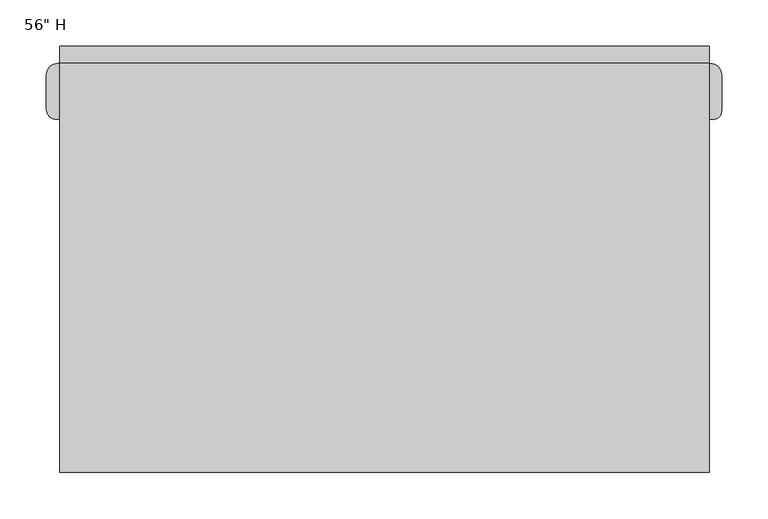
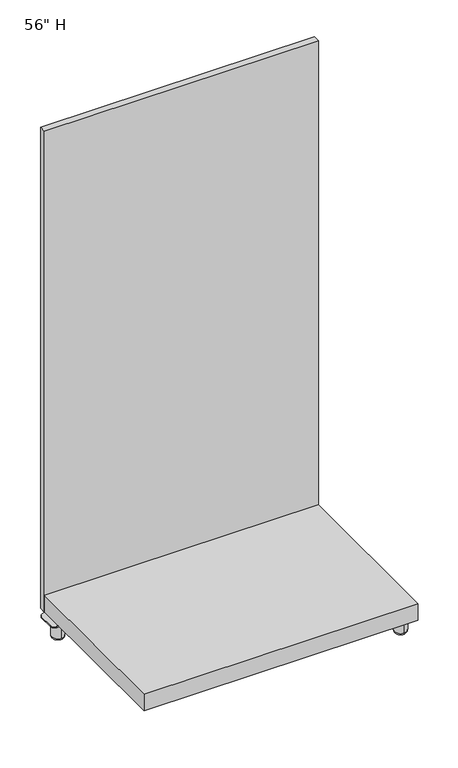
"""IFC4 building model written with IfcOpenShell, lengths in millimetres: furniture geometry."""

from ifc_helpers import new_model, si_unit, point, frame, frame_2d, origin, place, context, project, spatial, polyline, circle_curve, ellipse_curve, trimmed, segment, composite_curve, outline, extrude, source, transform, mapped, element, save
from ifc_brep_helpers import plane_surface, cylinder_surface, revolved_surface, advanced_brep


def furniture_d5c8ed67(model_context):
    return source(origin(), model_context, "Body", "SolidModel", [
        advanced_brep(
        [(332.8420843, -395.1035296, 88.0012691), (332.8420843, -426.3711705, 88.0012691), (332.8420843, -410.7373501, 88.0012691), (332.8420843, -401.4692087, 84.1912637), (332.8420843, -420.0054914, 84.1912637), (332.8420843, -403.7726725, 84.1912637), (332.8420843, -417.7020276, 84.1912637), (332.8420843, -403.7726725, 79.898675), (332.8420843, -417.7020276, 79.898675), (332.8420843, -407.1686498, 79.898675), (332.8420843, -414.3060503, 79.898675), (332.8420843, -407.1686498, 78.8669248), (332.8420843, -414.3060503, 78.8669248), (332.8420843, -395.1035296, 78.8669248), (332.8420843, -426.3711705, 78.8669248), (332.8420843, -395.1035296, 43.7095315), (332.8420843, -426.3711705, 43.7095315), (332.8420843, -401.4535296, 37.3595315), (332.8420843, -420.0211705, 37.3595315), (332.8420843, -410.7373501, 37.3595315)],
        [
            (0, 1, circle_curve(frame((332.8420843, -410.7373501, 88.0012691), z_axis=(0.0, 0.0, 1.0), x_axis=(0.0, -1.0, 0.0)), 15.6338204)),
            (1, 2),
            (2, 0),
            (1, 0, circle_curve(frame((332.8420843, -410.7373501, 88.0012691), z_axis=(0.0, 0.0, 1.0), x_axis=(0.0, -1.0, 0.0)), 15.6338204)),
            (3, 4, circle_curve(frame((332.8420843, -410.7373501, 84.1912637), z_axis=(0.0, 0.0, 1.0), x_axis=(0.0, -1.0, 0.0)), 9.2681413)),
            (4, 1),
            (0, 3),
            (4, 3, circle_curve(frame((332.8420843, -410.7373501, 84.1912637), z_axis=(0.0, 0.0, 1.0), x_axis=(0.0, -1.0, 0.0)), 9.2681413)),
            (5, 6, circle_curve(frame((332.8420843, -410.7373501, 84.1912637), z_axis=(0.0, 0.0, 1.0), x_axis=(0.0, -1.0, 0.0)), 6.9646775)),
            (6, 4),
            (3, 5),
            (6, 5, circle_curve(frame((332.8420843, -410.7373501, 84.1912637), z_axis=(0.0, 0.0, 1.0), x_axis=(0.0, -1.0, 0.0)), 6.9646775)),
            (7, 8, circle_curve(frame((332.8420843, -410.7373501, 79.898675), z_axis=(0.0, 0.0, 1.0), x_axis=(0.0, -1.0, 0.0)), 6.9646775)),
            (8, 6, circle_curve(frame((332.8420843, -415.6994524, 82.0449694), z_axis=(-1.0, 0.0, 0.0), x_axis=(0.0, 1.0, 0.0)), 2.9354534)),
            (5, 7, circle_curve(frame((332.8420843, -405.7752478, 82.0449694), z_axis=(-1.0, 0.0, 0.0), x_axis=(0.0, -1.0, 0.0)), 2.9354534)),
            (8, 7, circle_curve(frame((332.8420843, -410.7373501, 79.898675), z_axis=(0.0, 0.0, 1.0), x_axis=(0.0, -1.0, 0.0)), 6.9646775)),
            (9, 10, circle_curve(frame((332.8420843, -410.7373501, 79.898675), z_axis=(0.0, 0.0, 1.0), x_axis=(0.0, -1.0, 0.0)), 3.5687002)),
            (10, 8),
            (7, 9),
            (10, 9, circle_curve(frame((332.8420843, -410.7373501, 79.898675), z_axis=(0.0, 0.0, 1.0), x_axis=(0.0, -1.0, 0.0)), 3.5687002)),
            (11, 12, circle_curve(frame((332.8420843, -410.7373501, 78.8669248), z_axis=(0.0, 0.0, 1.0), x_axis=(0.0, -1.0, 0.0)), 3.5687002)),
            (12, 10),
            (9, 11),
            (12, 11, circle_curve(frame((332.8420843, -410.7373501, 78.8669248), z_axis=(0.0, 0.0, 1.0), x_axis=(0.0, -1.0, 0.0)), 3.5687002)),
            (13, 14, circle_curve(frame((332.8420843, -410.7373501, 78.8669248), z_axis=(0.0, 0.0, 1.0), x_axis=(0.0, -1.0, 0.0)), 15.6338204)),
            (14, 12),
            (11, 13),
            (14, 13, circle_curve(frame((332.8420843, -410.7373501, 78.8669248), z_axis=(0.0, 0.0, 1.0), x_axis=(0.0, -1.0, 0.0)), 15.6338204)),
            (15, 16, circle_curve(frame((332.8420843, -410.7373501, 43.7095315), z_axis=(0.0, 0.0, 1.0), x_axis=(0.0, -1.0, 0.0)), 15.6338204)),
            (16, 14),
            (13, 15),
            (16, 15, circle_curve(frame((332.8420843, -410.7373501, 43.7095315), z_axis=(0.0, 0.0, 1.0), x_axis=(0.0, -1.0, 0.0)), 15.6338204)),
            (17, 18, circle_curve(frame((332.8420843, -410.7373501, 37.3595315), z_axis=(0.0, 0.0, 1.0), x_axis=(0.0, -1.0, 0.0)), 9.2838204)),
            (18, 16, circle_curve(frame((332.8420843, -420.0211705, 43.7095315), z_axis=(-1.0, 0.0, 0.0), x_axis=(0.0, 1.0, 0.0)), 6.35)),
            (15, 17, circle_curve(frame((332.8420843, -401.4535296, 43.7095315), z_axis=(-1.0, 0.0, 0.0), x_axis=(0.0, -1.0, 0.0)), 6.35)),
            (18, 17, circle_curve(frame((332.8420843, -410.7373501, 37.3595315), z_axis=(0.0, 0.0, 1.0), x_axis=(0.0, -1.0, 0.0)), 9.2838204)),
            (19, 18),
            (17, 19),
        ],
        [
            plane_surface(frame((332.8420843, -410.7373501, 88.0012691), z_axis=(0.0, 0.0, 1.0), x_axis=(0.0, -1.0, 0.0))),
            revolved_surface(polyline([(332.8420843, -426.3711705, 88.0012691), (332.8420843, -420.0054914, 84.1912637)]), (332.8420843, -410.7373501, 88.0012691), (0.0, 0.0, -1.0)),
            plane_surface(frame((332.8420843, -410.7373501, 84.1912637), z_axis=(0.0, 0.0, -1.0), x_axis=(0.0, -1.0, 0.0))),
            revolved_surface(trimmed(ellipse_curve(frame((332.8420843, -415.6994524, 82.0449694), z_axis=(1.0, 0.0, 0.0), x_axis=(0.0, 1.0, 0.0)), 2.9354534, 2.9354534), [point((332.8420843, -417.7020276, 84.1912637))], [point((332.8420843, -417.7020276, 79.898675))], True, "CARTESIAN"), (332.8420843, -410.7373501, 88.0012691), (0.0, 0.0, -1.0)),
            plane_surface(frame((332.8420843, -410.7373501, 79.898675), z_axis=(0.0, 0.0, -1.0), x_axis=(0.0, -1.0, 0.0))),
            cylinder_surface(frame((332.8420843, -410.7373501, 88.0012691), z_axis=(0.0, 0.0, -1.0), x_axis=(0.0, -1.0, 0.0)), 3.5687002),
            plane_surface(frame((332.8420843, -410.7373501, 78.8669248), z_axis=(0.0, 0.0, 1.0), x_axis=(0.0, -1.0, 0.0))),
            cylinder_surface(frame((332.8420843, -410.7373501, 88.0012691), z_axis=(0.0, 0.0, -1.0), x_axis=(0.0, -1.0, 0.0)), 15.6338204),
            revolved_surface(trimmed(ellipse_curve(frame((332.8420843, -420.0211705, 43.7095315), z_axis=(1.0, 0.0, 0.0), x_axis=(0.0, 1.0, 0.0)), 6.35, 6.35), [point((332.8420843, -426.3711705, 43.7095315))], [point((332.8420843, -420.0211705, 37.3595315))], True, "CARTESIAN"), (332.8420843, -410.7373501, 88.0012691), (0.0, 0.0, -1.0)),
            plane_surface(frame((332.8420843, -410.7373501, 37.3595315), z_axis=(0.0, 0.0, -1.0), x_axis=(0.0, -1.0, 0.0))),
        ],
        [
            (0, [[1, 2, 3]]),
            (0, [[4, -3, -2]]),
            (1, [[5, 6, -1, 7]]),
            (1, [[8, -7, -4, -6]]),
            (2, [[9, 10, -5, 11]]),
            (2, [[12, -11, -8, -10]]),
            (3, [[13, 14, -9, 15]]),
            (3, [[16, -15, -12, -14]]),
            (4, [[17, 18, -13, 19]]),
            (4, [[20, -19, -16, -18]]),
            (5, [[21, 22, -17, 23]]),
            (5, [[24, -23, -20, -22]]),
            (6, [[25, 26, -21, 27]]),
            (6, [[28, -27, -24, -26]]),
            (7, [[29, 30, -25, 31]]),
            (7, [[32, -31, -28, -30]]),
            (8, [[33, 34, -29, 35]]),
            (8, [[36, -35, -32, -34]]),
            (9, [[37, -33, 38]]),
            (9, [[-38, -36, -37]]),
        ],
    ),
        extrude(outline(composite_curve([segment(polyline([(-312.5986224, -79.1802312), (-353.0338836, -79.1802312)]), True, "CONTINUOUS"), segment(trimmed(circle_curve(frame_2d((-353.0338836, -68.3207721)), 10.8594591), [point((-353.0338836, -79.1802312))], [point((-363.8933426, -68.3207721))], False, "CARTESIAN"), True, "CONTINUOUS"), segment(polyline([(-363.8933426, -68.3207721), (-363.8933426, -31.6030371)]), True, "CONTINUOUS"), segment(trimmed(circle_curve(frame_2d((-351.1933426, -31.6030371)), 12.7), [point((-363.8933426, -31.6030371))], [point((-351.1933426, -18.9030371))], False, "CARTESIAN"), True, "CONTINUOUS"), segment(polyline([(-351.1933426, -18.9030371), (-316.1278694, -18.9030371)]), True, "CONTINUOUS"), segment(trimmed(circle_curve(frame_2d((-316.1278694, -31.6030371)), 12.7), [point((-316.1278694, -18.9030371))], [point((-303.4278694, -31.6030371))], False, "CARTESIAN"), True, "CONTINUOUS"), segment(polyline([(-303.4278694, -31.6030371), (-303.4278694, -70.0094781)]), True, "CONTINUOUS"), segment(trimmed(circle_curve(frame_2d((-312.5986224, -70.0094781)), 9.1707531), [point((-303.4278694, -70.0094781))], [point((-312.5986224, -79.1802312))], False, "CARTESIAN"), True, "CONTINUOUS")], self_intersect=False)), frame((0.0, 0.0, 88.0012691), z_axis=(0.0, 0.0, 1.0), x_axis=(1.0, 0.0, 0.0)), (0.0, 0.0, 1.0), 2.8561029),
        advanced_brep(
        [(-333.4021566, -33.6269203, 88.0012691), (-333.4021566, -64.8945612, 88.0012691), (-333.4021566, -49.2607408, 88.0012691), (-333.4021566, -39.9925994, 84.1912637), (-333.4021566, -58.5288821, 84.1912637), (-333.4021566, -42.2960632, 84.1912637), (-333.4021566, -56.2254183, 84.1912637), (-333.4021566, -42.2960632, 79.898675), (-333.4021566, -56.2254183, 79.898675), (-333.4021566, -45.6920405, 79.898675), (-333.4021566, -52.829441, 79.898675), (-333.4021566, -45.6920405, 78.8669248), (-333.4021566, -52.829441, 78.8669248), (-333.4021566, -33.6269203, 78.8669248), (-333.4021566, -64.8945612, 78.8669248), (-333.4021566, -33.6269203, 43.7095315), (-333.4021566, -64.8945612, 43.7095315), (-333.4021566, -39.9769203, 37.3595315), (-333.4021566, -58.5445612, 37.3595315), (-333.4021566, -49.2607408, 37.3595315)],
        [
            (0, 1, circle_curve(frame((-333.4021566, -49.2607408, 88.0012691), z_axis=(0.0, 0.0, 1.0), x_axis=(0.0, -1.0, 0.0)), 15.6338204)),
            (1, 2),
            (2, 0),
            (1, 0, circle_curve(frame((-333.4021566, -49.2607408, 88.0012691), z_axis=(0.0, 0.0, 1.0), x_axis=(0.0, -1.0, 0.0)), 15.6338204)),
            (3, 4, circle_curve(frame((-333.4021566, -49.2607408, 84.1912637), z_axis=(0.0, 0.0, 1.0), x_axis=(0.0, -1.0, 0.0)), 9.2681413)),
            (4, 1),
            (0, 3),
            (4, 3, circle_curve(frame((-333.4021566, -49.2607408, 84.1912637), z_axis=(0.0, 0.0, 1.0), x_axis=(0.0, -1.0, 0.0)), 9.2681413)),
            (5, 6, circle_curve(frame((-333.4021566, -49.2607408, 84.1912637), z_axis=(0.0, 0.0, 1.0), x_axis=(0.0, -1.0, 0.0)), 6.9646775)),
            (6, 4),
            (3, 5),
            (6, 5, circle_curve(frame((-333.4021566, -49.2607408, 84.1912637), z_axis=(0.0, 0.0, 1.0), x_axis=(0.0, -1.0, 0.0)), 6.9646775)),
            (7, 8, circle_curve(frame((-333.4021566, -49.2607408, 79.898675), z_axis=(0.0, 0.0, 1.0), x_axis=(0.0, -1.0, 0.0)), 6.9646775)),
            (8, 6, circle_curve(frame((-333.4021566, -54.222843, 82.0449694), z_axis=(-1.0, 0.0, 0.0), x_axis=(0.0, 1.0, 0.0)), 2.9354534)),
            (5, 7, circle_curve(frame((-333.4021566, -44.2986385, 82.0449694), z_axis=(-1.0, 0.0, 0.0), x_axis=(0.0, -1.0, 0.0)), 2.9354534)),
            (8, 7, circle_curve(frame((-333.4021566, -49.2607408, 79.898675), z_axis=(0.0, 0.0, 1.0), x_axis=(0.0, -1.0, 0.0)), 6.9646775)),
            (9, 10, circle_curve(frame((-333.4021566, -49.2607408, 79.898675), z_axis=(0.0, 0.0, 1.0), x_axis=(0.0, -1.0, 0.0)), 3.5687002)),
            (10, 8),
            (7, 9),
            (10, 9, circle_curve(frame((-333.4021566, -49.2607408, 79.898675), z_axis=(0.0, 0.0, 1.0), x_axis=(0.0, -1.0, 0.0)), 3.5687002)),
            (11, 12, circle_curve(frame((-333.4021566, -49.2607408, 78.8669248), z_axis=(0.0, 0.0, 1.0), x_axis=(0.0, -1.0, 0.0)), 3.5687002)),
            (12, 10),
            (9, 11),
            (12, 11, circle_curve(frame((-333.4021566, -49.2607408, 78.8669248), z_axis=(0.0, 0.0, 1.0), x_axis=(0.0, -1.0, 0.0)), 3.5687002)),
            (13, 14, circle_curve(frame((-333.4021566, -49.2607408, 78.8669248), z_axis=(0.0, 0.0, 1.0), x_axis=(0.0, -1.0, 0.0)), 15.6338204)),
            (14, 12),
            (11, 13),
            (14, 13, circle_curve(frame((-333.4021566, -49.2607408, 78.8669248), z_axis=(0.0, 0.0, 1.0), x_axis=(0.0, -1.0, 0.0)), 15.6338204)),
            (15, 16, circle_curve(frame((-333.4021566, -49.2607408, 43.7095315), z_axis=(0.0, 0.0, 1.0), x_axis=(0.0, -1.0, 0.0)), 15.6338204)),
            (16, 14),
            (13, 15),
            (16, 15, circle_curve(frame((-333.4021566, -49.2607408, 43.7095315), z_axis=(0.0, 0.0, 1.0), x_axis=(0.0, -1.0, 0.0)), 15.6338204)),
            (17, 18, circle_curve(frame((-333.4021566, -49.2607408, 37.3595315), z_axis=(0.0, 0.0, 1.0), x_axis=(0.0, -1.0, 0.0)), 9.2838204)),
            (18, 16, circle_curve(frame((-333.4021566, -58.5445612, 43.7095315), z_axis=(-1.0, 0.0, 0.0), x_axis=(0.0, 1.0, 0.0)), 6.35)),
            (15, 17, circle_curve(frame((-333.4021566, -39.9769203, 43.7095315), z_axis=(-1.0, 0.0, 0.0), x_axis=(0.0, -1.0, 0.0)), 6.35)),
            (18, 17, circle_curve(frame((-333.4021566, -49.2607408, 37.3595315), z_axis=(0.0, 0.0, 1.0), x_axis=(0.0, -1.0, 0.0)), 9.2838204)),
            (19, 18),
            (17, 19),
        ],
        [
            plane_surface(frame((-333.4021566, -49.2607408, 88.0012691), z_axis=(0.0, 0.0, 1.0), x_axis=(0.0, -1.0, 0.0))),
            revolved_surface(polyline([(-333.4021566, -64.8945612, 88.0012691), (-333.4021566, -58.5288821, 84.1912637)]), (-333.4021566, -49.2607408, 88.0012691), (0.0, 0.0, -1.0)),
            plane_surface(frame((-333.4021566, -49.2607408, 84.1912637), z_axis=(0.0, 0.0, -1.0), x_axis=(0.0, -1.0, 0.0))),
            revolved_surface(trimmed(ellipse_curve(frame((-333.4021566, -54.222843, 82.0449694), z_axis=(1.0, 0.0, 0.0), x_axis=(0.0, 1.0, 0.0)), 2.9354534, 2.9354534), [point((-333.4021566, -56.2254183, 84.1912637))], [point((-333.4021566, -56.2254183, 79.898675))], True, "CARTESIAN"), (-333.4021566, -49.2607408, 88.0012691), (0.0, 0.0, -1.0)),
            plane_surface(frame((-333.4021566, -49.2607408, 79.898675), z_axis=(0.0, 0.0, -1.0), x_axis=(0.0, -1.0, 0.0))),
            cylinder_surface(frame((-333.4021566, -49.2607408, 88.0012691), z_axis=(0.0, 0.0, -1.0), x_axis=(0.0, -1.0, 0.0)), 3.5687002),
            plane_surface(frame((-333.4021566, -49.2607408, 78.8669248), z_axis=(0.0, 0.0, 1.0), x_axis=(0.0, -1.0, 0.0))),
            cylinder_surface(frame((-333.4021566, -49.2607408, 88.0012691), z_axis=(0.0, 0.0, -1.0), x_axis=(0.0, -1.0, 0.0)), 15.6338204),
            revolved_surface(trimmed(ellipse_curve(frame((-333.4021566, -58.5445612, 43.7095315), z_axis=(1.0, 0.0, 0.0), x_axis=(0.0, 1.0, 0.0)), 6.35, 6.35), [point((-333.4021566, -64.8945612, 43.7095315))], [point((-333.4021566, -58.5445612, 37.3595315))], True, "CARTESIAN"), (-333.4021566, -49.2607408, 88.0012691), (0.0, 0.0, -1.0)),
            plane_surface(frame((-333.4021566, -49.2607408, 37.3595315), z_axis=(0.0, 0.0, -1.0), x_axis=(0.0, -1.0, 0.0))),
        ],
        [
            (0, [[1, 2, 3]]),
            (0, [[4, -3, -2]]),
            (1, [[5, 6, -1, 7]]),
            (1, [[8, -7, -4, -6]]),
            (2, [[9, 10, -5, 11]]),
            (2, [[12, -11, -8, -10]]),
            (3, [[13, 14, -9, 15]]),
            (3, [[16, -15, -12, -14]]),
            (4, [[17, 18, -13, 19]]),
            (4, [[20, -19, -16, -18]]),
            (5, [[21, 22, -17, 23]]),
            (5, [[24, -23, -20, -22]]),
            (6, [[25, 26, -21, 27]]),
            (6, [[28, -27, -24, -26]]),
            (7, [[29, 30, -25, 31]]),
            (7, [[32, -31, -28, -30]]),
            (8, [[33, 34, -29, 35]]),
            (8, [[36, -35, -32, -34]]),
            (9, [[37, -33, 38]]),
            (9, [[-38, -36, -37]]),
        ],
    ),
        extrude(outline(composite_curve([segment(polyline([(353.6456185, -79.1802312), (313.2103573, -79.1802312)]), True, "CONTINUOUS"), segment(trimmed(circle_curve(frame_2d((313.2103573, -68.3207721)), 10.8594591), [point((313.2103573, -79.1802312))], [point((302.3508983, -68.3207721))], False, "CARTESIAN"), True, "CONTINUOUS"), segment(polyline([(302.3508983, -68.3207721), (302.3508983, -31.6030371)]), True, "CONTINUOUS"), segment(trimmed(circle_curve(frame_2d((315.0508983, -31.6030371)), 12.7), [point((302.3508983, -31.6030371))], [point((315.0508983, -18.9030371))], False, "CARTESIAN"), True, "CONTINUOUS"), segment(polyline([(315.0508983, -18.9030371), (350.1163715, -18.9030371)]), True, "CONTINUOUS"), segment(trimmed(circle_curve(frame_2d((350.1163715, -31.6030371)), 12.7), [point((350.1163715, -18.9030371))], [point((362.8163715, -31.6030371))], False, "CARTESIAN"), True, "CONTINUOUS"), segment(polyline([(362.8163715, -31.6030371), (362.8163715, -70.0094781)]), True, "CONTINUOUS"), segment(trimmed(circle_curve(frame_2d((353.6456185, -70.0094781)), 9.1707531), [point((362.8163715, -70.0094781))], [point((353.6456185, -79.1802312))], False, "CARTESIAN"), True, "CONTINUOUS")], self_intersect=False)), frame((0.0, 0.0, 88.0012691), z_axis=(0.0, 0.0, 1.0), x_axis=(1.0, 0.0, 0.0)), (0.0, 0.0, 1.0), 2.8561029),
        advanced_brep(
        [(332.8420843, -33.6269203, 88.0012691), (332.8420843, -64.8945612, 88.0012691), (332.8420843, -49.2607408, 88.0012691), (332.8420843, -39.9925994, 84.1912637), (332.8420843, -58.5288821, 84.1912637), (332.8420843, -42.2960632, 84.1912637), (332.8420843, -56.2254183, 84.1912637), (332.8420843, -42.2960632, 79.898675), (332.8420843, -56.2254183, 79.898675), (332.8420843, -45.6920405, 79.898675), (332.8420843, -52.829441, 79.898675), (332.8420843, -45.6920405, 78.8669248), (332.8420843, -52.829441, 78.8669248), (332.8420843, -33.6269203, 78.8669248), (332.8420843, -64.8945612, 78.8669248), (332.8420843, -33.6269203, 43.7095315), (332.8420843, -64.8945612, 43.7095315), (332.8420843, -39.9769203, 37.3595315), (332.8420843, -58.5445612, 37.3595315), (332.8420843, -49.2607408, 37.3595315)],
        [
            (0, 1, circle_curve(frame((332.8420843, -49.2607408, 88.0012691), z_axis=(0.0, 0.0, 1.0), x_axis=(0.0, -1.0, 0.0)), 15.6338204)),
            (1, 2),
            (2, 0),
            (1, 0, circle_curve(frame((332.8420843, -49.2607408, 88.0012691), z_axis=(0.0, 0.0, 1.0), x_axis=(0.0, -1.0, 0.0)), 15.6338204)),
            (3, 4, circle_curve(frame((332.8420843, -49.2607408, 84.1912637), z_axis=(0.0, 0.0, 1.0), x_axis=(0.0, -1.0, 0.0)), 9.2681413)),
            (4, 1),
            (0, 3),
            (4, 3, circle_curve(frame((332.8420843, -49.2607408, 84.1912637), z_axis=(0.0, 0.0, 1.0), x_axis=(0.0, -1.0, 0.0)), 9.2681413)),
            (5, 6, circle_curve(frame((332.8420843, -49.2607408, 84.1912637), z_axis=(0.0, 0.0, 1.0), x_axis=(0.0, -1.0, 0.0)), 6.9646775)),
            (6, 4),
            (3, 5),
            (6, 5, circle_curve(frame((332.8420843, -49.2607408, 84.1912637), z_axis=(0.0, 0.0, 1.0), x_axis=(0.0, -1.0, 0.0)), 6.9646775)),
            (7, 8, circle_curve(frame((332.8420843, -49.2607408, 79.898675), z_axis=(0.0, 0.0, 1.0), x_axis=(0.0, -1.0, 0.0)), 6.9646775)),
            (8, 6, circle_curve(frame((332.8420843, -54.222843, 82.0449694), z_axis=(-1.0, 0.0, 0.0), x_axis=(0.0, 1.0, 0.0)), 2.9354534)),
            (5, 7, circle_curve(frame((332.8420843, -44.2986385, 82.0449694), z_axis=(-1.0, 0.0, 0.0), x_axis=(0.0, -1.0, 0.0)), 2.9354534)),
            (8, 7, circle_curve(frame((332.8420843, -49.2607408, 79.898675), z_axis=(0.0, 0.0, 1.0), x_axis=(0.0, -1.0, 0.0)), 6.9646775)),
            (9, 10, circle_curve(frame((332.8420843, -49.2607408, 79.898675), z_axis=(0.0, 0.0, 1.0), x_axis=(0.0, -1.0, 0.0)), 3.5687002)),
            (10, 8),
            (7, 9),
            (10, 9, circle_curve(frame((332.8420843, -49.2607408, 79.898675), z_axis=(0.0, 0.0, 1.0), x_axis=(0.0, -1.0, 0.0)), 3.5687002)),
            (11, 12, circle_curve(frame((332.8420843, -49.2607408, 78.8669248), z_axis=(0.0, 0.0, 1.0), x_axis=(0.0, -1.0, 0.0)), 3.5687002)),
            (12, 10),
            (9, 11),
            (12, 11, circle_curve(frame((332.8420843, -49.2607408, 78.8669248), z_axis=(0.0, 0.0, 1.0), x_axis=(0.0, -1.0, 0.0)), 3.5687002)),
            (13, 14, circle_curve(frame((332.8420843, -49.2607408, 78.8669248), z_axis=(0.0, 0.0, 1.0), x_axis=(0.0, -1.0, 0.0)), 15.6338204)),
            (14, 12),
            (11, 13),
            (14, 13, circle_curve(frame((332.8420843, -49.2607408, 78.8669248), z_axis=(0.0, 0.0, 1.0), x_axis=(0.0, -1.0, 0.0)), 15.6338204)),
            (15, 16, circle_curve(frame((332.8420843, -49.2607408, 43.7095315), z_axis=(0.0, 0.0, 1.0), x_axis=(0.0, -1.0, 0.0)), 15.6338204)),
            (16, 14),
            (13, 15),
            (16, 15, circle_curve(frame((332.8420843, -49.2607408, 43.7095315), z_axis=(0.0, 0.0, 1.0), x_axis=(0.0, -1.0, 0.0)), 15.6338204)),
            (17, 18, circle_curve(frame((332.8420843, -49.2607408, 37.3595315), z_axis=(0.0, 0.0, 1.0), x_axis=(0.0, -1.0, 0.0)), 9.2838204)),
            (18, 16, circle_curve(frame((332.8420843, -58.5445612, 43.7095315), z_axis=(-1.0, 0.0, 0.0), x_axis=(0.0, 1.0, 0.0)), 6.35)),
            (15, 17, circle_curve(frame((332.8420843, -39.9769203, 43.7095315), z_axis=(-1.0, 0.0, 0.0), x_axis=(0.0, -1.0, 0.0)), 6.35)),
            (18, 17, circle_curve(frame((332.8420843, -49.2607408, 37.3595315), z_axis=(0.0, 0.0, 1.0), x_axis=(0.0, -1.0, 0.0)), 9.2838204)),
            (19, 18),
            (17, 19),
        ],
        [
            plane_surface(frame((332.8420843, -49.2607408, 88.0012691), z_axis=(0.0, 0.0, 1.0), x_axis=(0.0, -1.0, 0.0))),
            revolved_surface(polyline([(332.8420843, -64.8945612, 88.0012691), (332.8420843, -58.5288821, 84.1912637)]), (332.8420843, -49.2607408, 88.0012691), (0.0, 0.0, -1.0)),
            plane_surface(frame((332.8420843, -49.2607408, 84.1912637), z_axis=(0.0, 0.0, -1.0), x_axis=(0.0, -1.0, 0.0))),
            revolved_surface(trimmed(ellipse_curve(frame((332.8420843, -54.222843, 82.0449694), z_axis=(1.0, 0.0, 0.0), x_axis=(0.0, 1.0, 0.0)), 2.9354534, 2.9354534), [point((332.8420843, -56.2254183, 84.1912637))], [point((332.8420843, -56.2254183, 79.898675))], True, "CARTESIAN"), (332.8420843, -49.2607408, 88.0012691), (0.0, 0.0, -1.0)),
            plane_surface(frame((332.8420843, -49.2607408, 79.898675), z_axis=(0.0, 0.0, -1.0), x_axis=(0.0, -1.0, 0.0))),
            cylinder_surface(frame((332.8420843, -49.2607408, 88.0012691), z_axis=(0.0, 0.0, -1.0), x_axis=(0.0, -1.0, 0.0)), 3.5687002),
            plane_surface(frame((332.8420843, -49.2607408, 78.8669248), z_axis=(0.0, 0.0, 1.0), x_axis=(0.0, -1.0, 0.0))),
            cylinder_surface(frame((332.8420843, -49.2607408, 88.0012691), z_axis=(0.0, 0.0, -1.0), x_axis=(0.0, -1.0, 0.0)), 15.6338204),
            revolved_surface(trimmed(ellipse_curve(frame((332.8420843, -58.5445612, 43.7095315), z_axis=(1.0, 0.0, 0.0), x_axis=(0.0, 1.0, 0.0)), 6.35, 6.35), [point((332.8420843, -64.8945612, 43.7095315))], [point((332.8420843, -58.5445612, 37.3595315))], True, "CARTESIAN"), (332.8420843, -49.2607408, 88.0012691), (0.0, 0.0, -1.0)),
            plane_surface(frame((332.8420843, -49.2607408, 37.3595315), z_axis=(0.0, 0.0, -1.0), x_axis=(0.0, -1.0, 0.0))),
        ],
        [
            (0, [[1, 2, 3]]),
            (0, [[4, -3, -2]]),
            (1, [[5, 6, -1, 7]]),
            (1, [[8, -7, -4, -6]]),
            (2, [[9, 10, -5, 11]]),
            (2, [[12, -11, -8, -10]]),
            (3, [[13, 14, -9, 15]]),
            (3, [[16, -15, -12, -14]]),
            (4, [[17, 18, -13, 19]]),
            (4, [[20, -19, -16, -18]]),
            (5, [[21, 22, -17, 23]]),
            (5, [[24, -23, -20, -22]]),
            (6, [[25, 26, -21, 27]]),
            (6, [[28, -27, -24, -26]]),
            (7, [[29, 30, -25, 31]]),
            (7, [[32, -31, -28, -30]]),
            (8, [[33, 34, -29, 35]]),
            (8, [[36, -35, -32, -34]]),
            (9, [[37, -33, 38]]),
            (9, [[-38, -36, -37]]),
        ],
    ),
        extrude(outline(polyline([(349.6309118, -18.2422728), (349.6309118, -458.7406421), (-349.6309118, -458.7406421), (-349.6309118, -18.2422728), (349.6309118, -18.2422728)])), frame((0.0, 0.0, 92.3700704), z_axis=(0.0, 0.0, 1.0), x_axis=(1.0, 0.0, 0.0)), (0.0, 0.0, 1.0), 44.1600063),
        extrude(outline(polyline([(349.4049082, -0.79375), (349.4049082, -18.2422728), (-349.6309118, -18.2422728), (-349.6309118, -0.79375), (349.4049082, -0.79375)])), frame((0.0, 0.0, 90.857372), z_axis=(0.0, 0.0, 1.0), x_axis=(1.0, 0.0, 0.0)), (0.0, 0.0, 1.0), 1296.7641524),
    ])


if __name__ == "__main__":
    model = new_model("IFC4")
    model_context = context("Model", 3, world=origin())
    ifc_project = project(units=[si_unit("LENGTHUNIT", "METRE", prefix="MILLI")], contexts=[model_context])
    site = spatial("IfcSite", under=ifc_project)
    building = spatial("IfcBuilding", under=site)
    placement = place(None, origin())
    furniture_shape = furniture_d5c8ed67(model_context)
    element("IfcFurniture", 1, ObjectType="HON - Smartlink - Mobile Storage Cabinet with Bins : 56\" H", at=placement, inside=building, context=model_context, shape_type="MappedRepresentation", body=[
        mapped(furniture_shape, transform((0.0, 0.0, 0.0), x_axis=(1.0, 0.0, 0.0), y_axis=(0.0, 1.0, 0.0), z_axis=(0.0, 0.0, 1.0))),
    ])
    save(model, "model.ifc")
